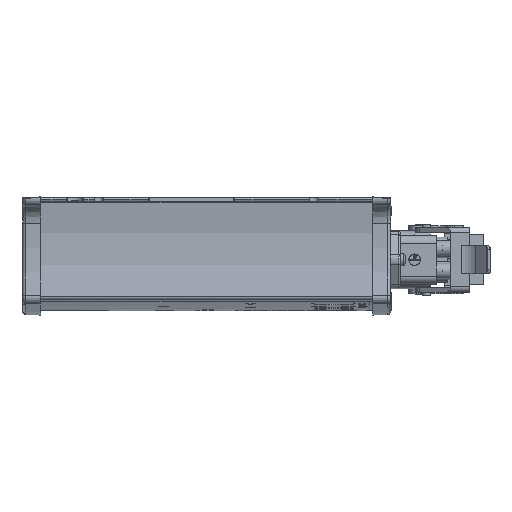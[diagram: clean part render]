
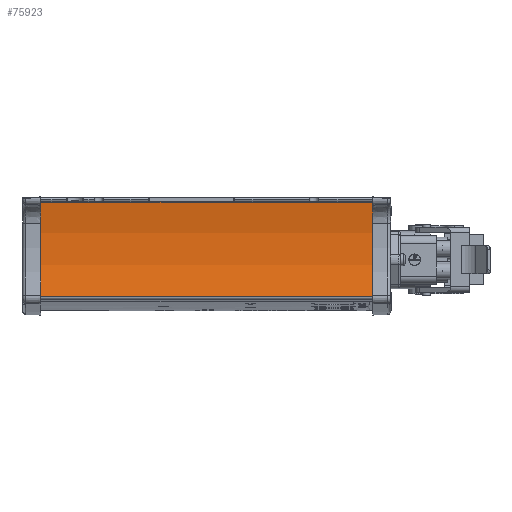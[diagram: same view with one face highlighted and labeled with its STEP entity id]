
A CAD part, left-side view. The second image highlights one B-rep face of the part: STEP entity #75923.
In plain terms, the highlighted cylindrical face has radius 109.9 mm (diameter 219.8 mm), a partial arc.
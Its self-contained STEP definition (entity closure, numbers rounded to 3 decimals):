
#6515 = VERTEX_POINT ( 'NONE', #47875 ) ;
#12341 = AXIS2_PLACEMENT_3D ( 'NONE', #160206, #22799, #38935 ) ;
#22799 = DIRECTION ( 'NONE',  ( 0., 1., 0. ) ) ;
#25952 = VECTOR ( 'NONE', #62079, 1000. ) ;
#32949 = CARTESIAN_POINT ( 'NONE',  ( -187.95, -175., -20.3 ) ) ;
#32961 = CIRCLE ( 'NONE', #129037, 109.9 ) ;
#38935 = DIRECTION ( 'NONE',  ( 0., 0., -1. ) ) ;
#45261 = CARTESIAN_POINT ( 'NONE',  ( -81.929, -1., -49.24 ) ) ;
#46983 = DIRECTION ( 'NONE',  ( 0., 1., 0. ) ) ;
#47875 = CARTESIAN_POINT ( 'NONE',  ( -79.662, -175., -1.548 ) ) ;
#62079 = DIRECTION ( 'NONE',  ( 0., 1., 0. ) ) ;
#75923 = ADVANCED_FACE ( 'NONE', ( #190255 ), #175192, .F. ) ;
#78097 = DIRECTION ( 'NONE',  ( 0., 0., 1. ) ) ;
#91264 = EDGE_CURVE ( 'NONE', #101720, #153266, #181376, .T. ) ;
#97530 = LINE ( 'NONE', #184014, #168251 ) ;
#99323 = CIRCLE ( 'NONE', #121706, 109.9 ) ;
#101720 = VERTEX_POINT ( 'NONE', #176476 ) ;
#115430 = ORIENTED_EDGE ( 'NONE', *, *, #142366, .T. ) ;
#118409 = EDGE_CURVE ( 'NONE', #6515, #101720, #99323, .T. ) ;
#121608 = EDGE_LOOP ( 'NONE', ( #132571, #182745, #142513, #115430 ) ) ;
#121706 = AXIS2_PLACEMENT_3D ( 'NONE', #32949, #46983, #188232 ) ;
#123938 = DIRECTION ( 'NONE',  ( 0., 1., 0. ) ) ;
#129037 = AXIS2_PLACEMENT_3D ( 'NONE', #170268, #166376, #78097 ) ;
#132571 = ORIENTED_EDGE ( 'NONE', *, *, #193026, .T. ) ;
#137370 = CARTESIAN_POINT ( 'NONE',  ( -81.929, -175., -49.24 ) ) ;
#138563 = VERTEX_POINT ( 'NONE', #163720 ) ;
#142366 = EDGE_CURVE ( 'NONE', #6515, #138563, #97530, .T. ) ;
#142513 = ORIENTED_EDGE ( 'NONE', *, *, #118409, .F. ) ;
#153266 = VERTEX_POINT ( 'NONE', #45261 ) ;
#160206 = CARTESIAN_POINT ( 'NONE',  ( -187.95, -175., -20.3 ) ) ;
#163720 = CARTESIAN_POINT ( 'NONE',  ( -79.662, -1., -1.548 ) ) ;
#166376 = DIRECTION ( 'NONE',  ( 0., 1., 0. ) ) ;
#168251 = VECTOR ( 'NONE', #123938, 1000. ) ;
#170268 = CARTESIAN_POINT ( 'NONE',  ( -187.95, -1., -20.3 ) ) ;
#175192 = CYLINDRICAL_SURFACE ( 'NONE', #12341, 109.9 ) ;
#176476 = CARTESIAN_POINT ( 'NONE',  ( -81.929, -175., -49.24 ) ) ;
#181376 = LINE ( 'NONE', #137370, #25952 ) ;
#182745 = ORIENTED_EDGE ( 'NONE', *, *, #91264, .F. ) ;
#184014 = CARTESIAN_POINT ( 'NONE',  ( -79.662, -175., -1.548 ) ) ;
#188232 = DIRECTION ( 'NONE',  ( 0., 0., 1. ) ) ;
#190255 = FACE_OUTER_BOUND ( 'NONE', #121608, .T. ) ;
#193026 = EDGE_CURVE ( 'NONE', #138563, #153266, #32961, .T. ) ;
